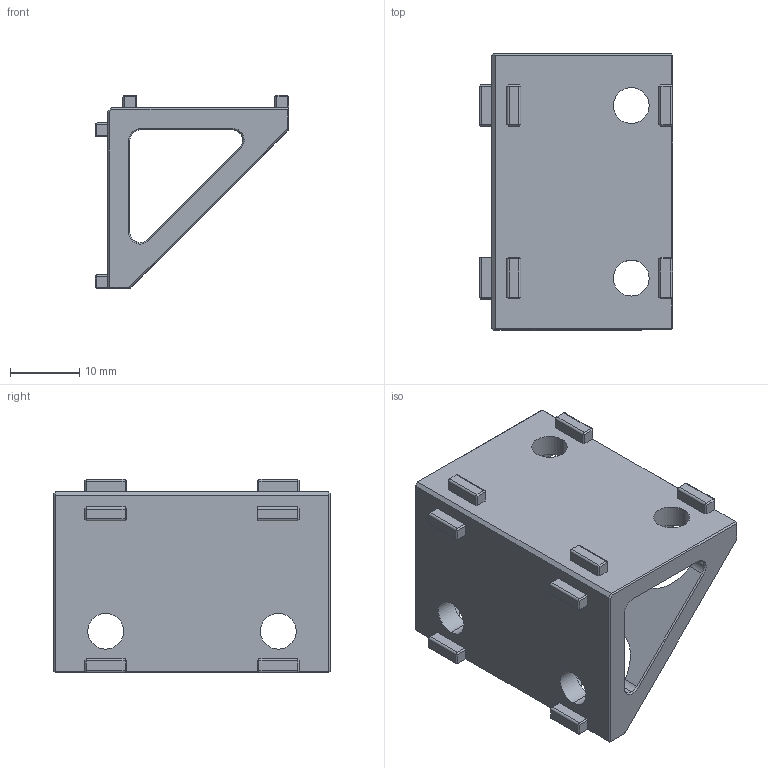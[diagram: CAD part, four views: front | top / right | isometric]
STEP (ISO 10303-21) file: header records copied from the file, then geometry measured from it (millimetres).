
FILE_DESCRIPTION (( 'STEP AP203' ), '1' );
FILE_NAME ('SMBD3-2525（新款）.STEP', '2023-10-12T07:34:23', ( '微软用户' ), ( '微软中国' ), 'SwSTEP 2.0', 'SolidWorks 2019', '' );
FILE_SCHEMA (( 'CONFIG_CONTROL_DESIGN' ));
Length unit declared in the file: millimetre
Products named in the file (1): SMBD3-2525（新款）
Bounding box: 28 x 40 x 28 mm (x, y, z)
Volume: 8786.4 mm3; surface area: 6503.5 mm2
Topology: 1 solids, 1 shells, 213 faces, 524 edges, 313 vertices
Faces by surface type: plane 120, cylinder 44, cone 41, bspline 8
Entity records: 10210 total; most frequent: CARTESIAN_POINT 5153, ORIENTED_EDGE 1048, DIRECTION 1001, EDGE_CURVE 524, VECTOR 371, LINE 371, AXIS2_PLACEMENT_3D 315, VERTEX_POINT 313
